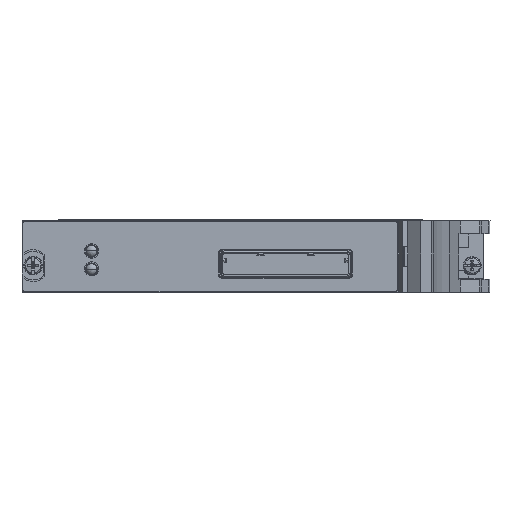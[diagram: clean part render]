
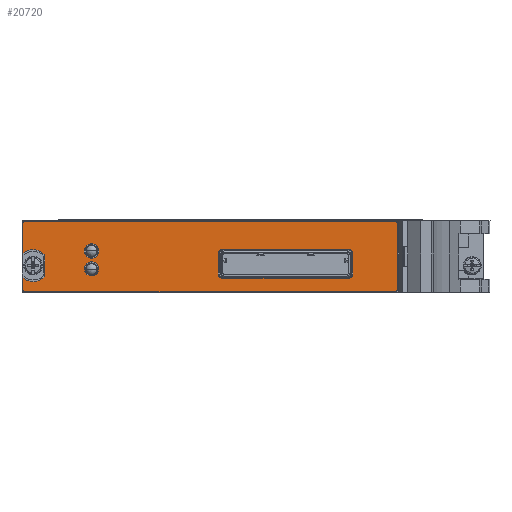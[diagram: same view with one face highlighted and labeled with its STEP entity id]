
A CAD part, left-side view. The second image highlights one B-rep face of the part: STEP entity #20720.
In plain terms, the highlighted planar face has unit normal (-1, 0, 0).
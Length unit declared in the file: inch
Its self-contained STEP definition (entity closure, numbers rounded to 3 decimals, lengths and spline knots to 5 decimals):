
#20267=CARTESIAN_POINT('',(-0.215,0.5344,0.66475));
#20268=DIRECTION('',(-1.,0.,0.));
#20269=DIRECTION('',(0.,0.,1.));
#20270=AXIS2_PLACEMENT_3D('',#20267,#20268,#20269);
#20272=DIRECTION('',(0.,1.,0.));
#20273=VECTOR('',#20272,4.07);
#20274=CARTESIAN_POINT('',(-0.215,-3.5356,0.68475));
#20275=LINE('',#20274,#20273);
#20276=CARTESIAN_POINT('',(-0.215,-3.5356,0.66475));
#20277=DIRECTION('',(-1.,0.,0.));
#20278=DIRECTION('',(0.,-1.,0.));
#20279=AXIS2_PLACEMENT_3D('',#20276,#20277,#20278);
#20281=DIRECTION('',(0.,0.,-1.));
#20282=VECTOR('',#20281,0.728);
#20283=CARTESIAN_POINT('',(-0.215,-3.5556,0.66475));
#20284=LINE('',#20283,#20282);
#20285=CARTESIAN_POINT('',(-0.215,-3.5356,-0.06325));
#20286=DIRECTION('',(-1.,0.,0.));
#20287=DIRECTION('',(0.,0.,-1.));
#20288=AXIS2_PLACEMENT_3D('',#20285,#20286,#20287);
#20290=DIRECTION('',(0.,-1.,0.));
#20291=VECTOR('',#20290,4.07);
#20292=CARTESIAN_POINT('',(-0.215,0.5344,-0.08325));
#20293=LINE('',#20292,#20291);
#20294=CARTESIAN_POINT('',(-0.215,0.5344,-0.06325));
#20295=DIRECTION('',(-1.,0.,0.));
#20296=DIRECTION('',(0.,1.,0.));
#20297=AXIS2_PLACEMENT_3D('',#20294,#20295,#20296);
#20299=DIRECTION('',(0.,0.,-1.));
#20300=VECTOR('',#20299,0.12953);
#20301=CARTESIAN_POINT('',(-0.215,0.5544,0.06628));
#20302=LINE('',#20301,#20300);
#20303=CARTESIAN_POINT('',(-0.215,0.4424,0.20075));
#20304=DIRECTION('',(1.,0.,0.));
#20305=DIRECTION('',(0.,-0.737,-0.676));
#20306=AXIS2_PLACEMENT_3D('',#20303,#20304,#20305);
#20308=DIRECTION('',(0.,0.,1.));
#20309=VECTOR('',#20308,0.23651);
#20310=CARTESIAN_POINT('',(-0.215,0.3134,0.0825));
#20311=LINE('',#20310,#20309);
#20312=CARTESIAN_POINT('',(-0.215,0.4424,0.20075));
#20313=DIRECTION('',(1.,0.,0.));
#20314=DIRECTION('',(0.,0.64,0.768));
#20315=AXIS2_PLACEMENT_3D('',#20312,#20313,#20314);
#20317=DIRECTION('',(0.,0.,-1.));
#20318=VECTOR('',#20317,0.32953);
#20319=CARTESIAN_POINT('',(-0.215,0.5544,0.66475));
#20320=LINE('',#20319,#20318);
#20321=CARTESIAN_POINT('',(-0.215,-0.1996,0.16675));
#20322=DIRECTION('',(-1.,0.,0.));
#20323=DIRECTION('',(0.,0.,1.));
#20324=AXIS2_PLACEMENT_3D('',#20321,#20322,#20323);
#20326=CARTESIAN_POINT('',(-0.215,-0.1996,0.16675));
#20327=DIRECTION('',(-1.,0.,0.));
#20328=DIRECTION('',(0.,0.,-1.));
#20329=AXIS2_PLACEMENT_3D('',#20326,#20327,#20328);
#20331=CARTESIAN_POINT('',(-0.215,-1.64023,0.10875));
#20332=DIRECTION('',(-1.,0.,0.));
#20333=DIRECTION('',(0.,1.,0.));
#20334=AXIS2_PLACEMENT_3D('',#20331,#20332,#20333);
#20336=DIRECTION('',(0.,-1.,0.));
#20337=VECTOR('',#20336,1.37838);
#20338=CARTESIAN_POINT('',(-0.215,-1.64023,0.05975));
#20339=LINE('',#20338,#20337);
#20340=CARTESIAN_POINT('',(-0.215,-3.01861,0.10875));
#20341=DIRECTION('',(-1.,0.,0.));
#20342=DIRECTION('',(0.,0.,-1.));
#20343=AXIS2_PLACEMENT_3D('',#20340,#20341,#20342);
#20345=DIRECTION('',(0.,0.,1.));
#20346=VECTOR('',#20345,0.225);
#20347=CARTESIAN_POINT('',(-0.215,-3.06761,0.10875));
#20348=LINE('',#20347,#20346);
#20349=CARTESIAN_POINT('',(-0.215,-3.01861,0.33375));
#20350=DIRECTION('',(-1.,0.,0.));
#20351=DIRECTION('',(0.,-1.,0.));
#20352=AXIS2_PLACEMENT_3D('',#20349,#20350,#20351);
#20354=DIRECTION('',(0.,1.,0.));
#20355=VECTOR('',#20354,1.37838);
#20356=CARTESIAN_POINT('',(-0.215,-3.01861,0.38275));
#20357=LINE('',#20356,#20355);
#20358=CARTESIAN_POINT('',(-0.215,-1.64023,0.33375));
#20359=DIRECTION('',(-1.,0.,0.));
#20360=DIRECTION('',(0.,0.,1.));
#20361=AXIS2_PLACEMENT_3D('',#20358,#20359,#20360);
#20363=DIRECTION('',(0.,0.,-1.));
#20364=VECTOR('',#20363,0.225);
#20365=CARTESIAN_POINT('',(-0.215,-1.59123,0.33375));
#20366=LINE('',#20365,#20364);
#20367=CARTESIAN_POINT('',(-0.215,-0.1996,0.36175));
#20368=DIRECTION('',(-1.,0.,0.));
#20369=DIRECTION('',(0.,0.,1.));
#20370=AXIS2_PLACEMENT_3D('',#20367,#20368,#20369);
#20372=CARTESIAN_POINT('',(-0.215,-0.1996,0.36175));
#20373=DIRECTION('',(-1.,0.,0.));
#20374=DIRECTION('',(0.,0.,-1.));
#20375=AXIS2_PLACEMENT_3D('',#20372,#20373,#20374);
#20485=CARTESIAN_POINT('',(-0.215,0.5344,0.68475));
#20486=CARTESIAN_POINT('',(-0.215,0.5544,0.66475));
#20487=VERTEX_POINT('',#20485);
#20488=VERTEX_POINT('',#20486);
#20489=CARTESIAN_POINT('',(-0.215,0.5544,0.33522));
#20490=VERTEX_POINT('',#20489);
#20491=CARTESIAN_POINT('',(-0.215,0.3134,0.319));
#20492=VERTEX_POINT('',#20491);
#20493=CARTESIAN_POINT('',(-0.215,0.3134,0.0825));
#20494=VERTEX_POINT('',#20493);
#20495=CARTESIAN_POINT('',(-0.215,0.5544,0.06628));
#20496=VERTEX_POINT('',#20495);
#20497=CARTESIAN_POINT('',(-0.215,0.5544,-0.06325));
#20498=VERTEX_POINT('',#20497);
#20499=CARTESIAN_POINT('',(-0.215,0.5344,-0.08325));
#20500=VERTEX_POINT('',#20499);
#20501=CARTESIAN_POINT('',(-0.215,-3.5356,-0.08325));
#20502=VERTEX_POINT('',#20501);
#20503=CARTESIAN_POINT('',(-0.215,-3.5556,-0.06325));
#20504=VERTEX_POINT('',#20503);
#20505=CARTESIAN_POINT('',(-0.215,-3.5556,0.66475));
#20506=VERTEX_POINT('',#20505);
#20507=CARTESIAN_POINT('',(-0.215,-3.5356,0.68475));
#20508=VERTEX_POINT('',#20507);
#20509=CARTESIAN_POINT('',(-0.215,-0.1996,0.24525));
#20510=CARTESIAN_POINT('',(-0.215,-0.1996,0.08825));
#20511=VERTEX_POINT('',#20509);
#20512=VERTEX_POINT('',#20510);
#20533=CARTESIAN_POINT('',(-0.215,-1.59123,0.10875));
#20534=CARTESIAN_POINT('',(-0.215,-1.64023,0.05975));
#20535=VERTEX_POINT('',#20533);
#20536=VERTEX_POINT('',#20534);
#20537=CARTESIAN_POINT('',(-0.215,-3.01861,0.05975));
#20538=VERTEX_POINT('',#20537);
#20539=CARTESIAN_POINT('',(-0.215,-3.06761,0.10875));
#20540=VERTEX_POINT('',#20539);
#20541=CARTESIAN_POINT('',(-0.215,-3.06761,0.33375));
#20542=VERTEX_POINT('',#20541);
#20543=CARTESIAN_POINT('',(-0.215,-3.01861,0.38275));
#20544=VERTEX_POINT('',#20543);
#20545=CARTESIAN_POINT('',(-0.215,-1.64023,0.38275));
#20546=VERTEX_POINT('',#20545);
#20547=CARTESIAN_POINT('',(-0.215,-1.59123,0.33375));
#20548=VERTEX_POINT('',#20547);
#20553=CARTESIAN_POINT('',(-0.215,-0.1996,0.44025));
#20554=CARTESIAN_POINT('',(-0.215,-0.1996,0.28325));
#20555=VERTEX_POINT('',#20553);
#20556=VERTEX_POINT('',#20554);
#20662=CARTESIAN_POINT('',(-0.215,0.4424,0.20075));
#20663=DIRECTION('',(-1.,0.,0.));
#20664=DIRECTION('',(0.,0.,1.));
#20665=AXIS2_PLACEMENT_3D('',#20662,#20663,#20664);
#20666=PLANE('',#20665);
#20667=ORIENTED_EDGE('',*,*,#20627,.F.);
#20668=ORIENTED_EDGE('',*,*,#20642,.F.);
#20669=ORIENTED_EDGE('',*,*,#20656,.F.);
#20671=ORIENTED_EDGE('',*,*,#20670,.T.);
#20673=ORIENTED_EDGE('',*,*,#20672,.F.);
#20675=ORIENTED_EDGE('',*,*,#20674,.F.);
#20677=ORIENTED_EDGE('',*,*,#20676,.F.);
#20679=ORIENTED_EDGE('',*,*,#20678,.F.);
#20681=ORIENTED_EDGE('',*,*,#20680,.F.);
#20683=ORIENTED_EDGE('',*,*,#20682,.T.);
#20685=ORIENTED_EDGE('',*,*,#20684,.F.);
#20687=ORIENTED_EDGE('',*,*,#20686,.F.);
#20688=EDGE_LOOP('',(#20667,#20668,#20669,#20671,#20673,#20675,#20677,#20679,
#20681,#20683,#20685,#20687));
#20689=FACE_OUTER_BOUND('',#20688,.F.);
#20691=ORIENTED_EDGE('',*,*,#20690,.T.);
#20693=ORIENTED_EDGE('',*,*,#20692,.T.);
#20694=EDGE_LOOP('',(#20691,#20693));
#20695=FACE_BOUND('',#20694,.F.);
#20697=ORIENTED_EDGE('',*,*,#20696,.T.);
#20699=ORIENTED_EDGE('',*,*,#20698,.T.);
#20701=ORIENTED_EDGE('',*,*,#20700,.T.);
#20703=ORIENTED_EDGE('',*,*,#20702,.T.);
#20705=ORIENTED_EDGE('',*,*,#20704,.T.);
#20707=ORIENTED_EDGE('',*,*,#20706,.T.);
#20709=ORIENTED_EDGE('',*,*,#20708,.T.);
#20711=ORIENTED_EDGE('',*,*,#20710,.T.);
#20712=EDGE_LOOP('',(#20697,#20699,#20701,#20703,#20705,#20707,#20709,#20711));
#20713=FACE_BOUND('',#20712,.F.);
#20715=ORIENTED_EDGE('',*,*,#20714,.T.);
#20717=ORIENTED_EDGE('',*,*,#20716,.T.);
#20718=EDGE_LOOP('',(#20715,#20717));
#20719=FACE_BOUND('',#20718,.F.);
#20720=ADVANCED_FACE('',(#20689,#20695,#20713,#20719),#20666,.T.);
#20271=CIRCLE('',#20270,0.02);
#20280=CIRCLE('',#20279,0.02);
#20289=CIRCLE('',#20288,0.02);
#20298=CIRCLE('',#20297,0.02);
#20307=CIRCLE('',#20306,0.175);
#20316=CIRCLE('',#20315,0.175);
#20325=CIRCLE('',#20324,0.0785);
#20330=CIRCLE('',#20329,0.0785);
#20335=CIRCLE('',#20334,0.049);
#20344=CIRCLE('',#20343,0.049);
#20353=CIRCLE('',#20352,0.049);
#20362=CIRCLE('',#20361,0.049);
#20371=CIRCLE('',#20370,0.0785);
#20376=CIRCLE('',#20375,0.0785);
#20627=EDGE_CURVE('',#20487,#20488,#20271,.T.);
#20642=EDGE_CURVE('',#20508,#20487,#20275,.T.);
#20656=EDGE_CURVE('',#20506,#20508,#20280,.T.);
#20670=EDGE_CURVE('',#20506,#20504,#20284,.T.);
#20672=EDGE_CURVE('',#20502,#20504,#20289,.T.);
#20674=EDGE_CURVE('',#20500,#20502,#20293,.T.);
#20676=EDGE_CURVE('',#20498,#20500,#20298,.T.);
#20678=EDGE_CURVE('',#20496,#20498,#20302,.T.);
#20680=EDGE_CURVE('',#20494,#20496,#20307,.T.);
#20682=EDGE_CURVE('',#20494,#20492,#20311,.T.);
#20684=EDGE_CURVE('',#20490,#20492,#20316,.T.);
#20686=EDGE_CURVE('',#20488,#20490,#20320,.T.);
#20690=EDGE_CURVE('',#20511,#20512,#20325,.T.);
#20692=EDGE_CURVE('',#20512,#20511,#20330,.T.);
#20696=EDGE_CURVE('',#20535,#20536,#20335,.T.);
#20698=EDGE_CURVE('',#20536,#20538,#20339,.T.);
#20700=EDGE_CURVE('',#20538,#20540,#20344,.T.);
#20702=EDGE_CURVE('',#20540,#20542,#20348,.T.);
#20704=EDGE_CURVE('',#20542,#20544,#20353,.T.);
#20706=EDGE_CURVE('',#20544,#20546,#20357,.T.);
#20708=EDGE_CURVE('',#20546,#20548,#20362,.T.);
#20710=EDGE_CURVE('',#20548,#20535,#20366,.T.);
#20714=EDGE_CURVE('',#20555,#20556,#20371,.T.);
#20716=EDGE_CURVE('',#20556,#20555,#20376,.T.);
